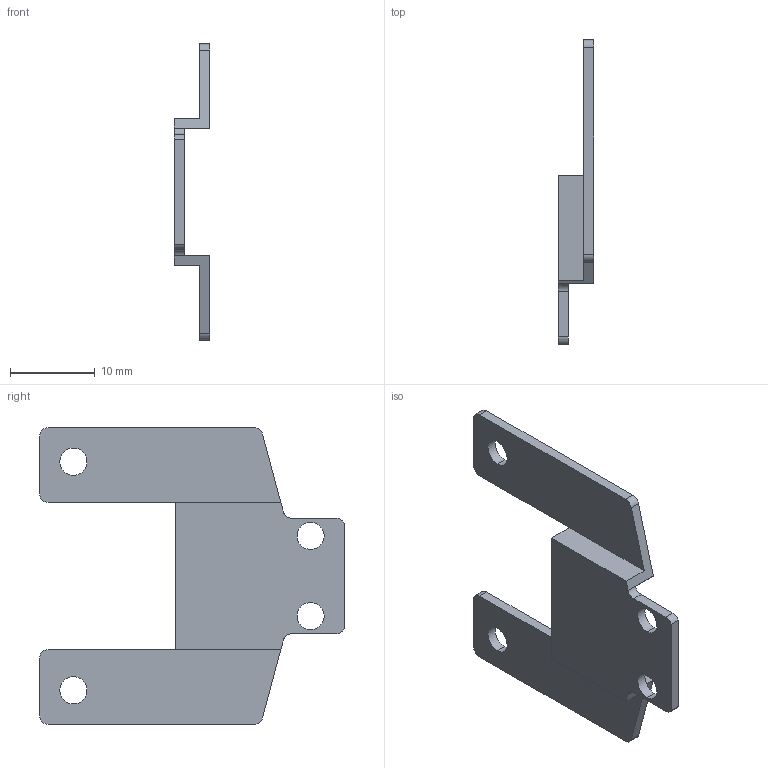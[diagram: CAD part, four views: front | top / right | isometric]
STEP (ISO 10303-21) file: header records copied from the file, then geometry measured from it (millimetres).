
FILE_DESCRIPTION (( 'STEP AP203' ), '1' );
FILE_NAME ('SX3000.STEP', '2021-06-24T13:28:40', ( '' ), ( '' ), 'SwSTEP 2.0', 'SolidWorks 2019', '' );
FILE_SCHEMA (( 'CONFIG_CONTROL_DESIGN' ));
Length unit declared in the file: millimetre
Products named in the file (1): SX3000
Bounding box: 4.2 x 36 x 35 mm (x, y, z)
Volume: 1012.5 mm3; surface area: 1949.2 mm2
Topology: 1 solids, 1 shells, 40 faces, 112 edges, 74 vertices
Faces by surface type: plane 22, cylinder 18
Entity records: 1391 total; most frequent: DIRECTION 232, CARTESIAN_POINT 227, ORIENTED_EDGE 224, EDGE_CURVE 112, AXIS2_PLACEMENT_3D 79, VECTOR 74, LINE 74, VERTEX_POINT 74
